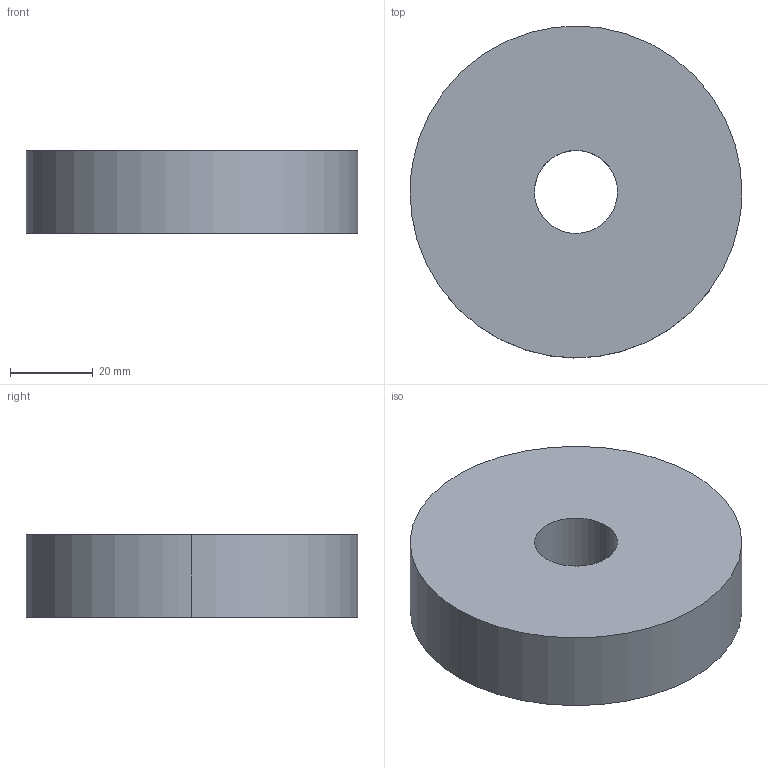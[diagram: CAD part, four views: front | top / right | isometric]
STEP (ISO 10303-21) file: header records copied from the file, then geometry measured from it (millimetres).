
FILE_DESCRIPTION(/* description */ (''),/* implementation_level */ '2;1');
FILE_NAME(/* name */ 'Material 1',/* time_stamp */ '2019-03-30T18:22:03-04:00',/* author */ (''),/* organization */ (''),/* preprocessor_version */ 'ST-DEVELOPER v15',/* originating_system */ '',/* authorisation */ '');
FILE_SCHEMA (('AUTOMOTIVE_DESIGN'));
Length unit declared in the file: millimetre
Products named in the file (1): Document
Bounding box: 80 x 79.99 x 20 mm (x, y, z)
Volume: 94445.8 mm3; surface area: 15715.5 mm2
Topology: 1 solids, 1 shells, 6 faces, 12 edges, 8 vertices
Faces by surface type: bspline 4, plane 2
Entity records: 197 total; most frequent: CARTESIAN_POINT 100, ORIENTED_EDGE 24, EDGE_CURVE 12, EDGE_LOOP 8, VERTEX_POINT 8, ADVANCED_FACE 6, FACE_OUTER_BOUND 6, DIRECTION 6
